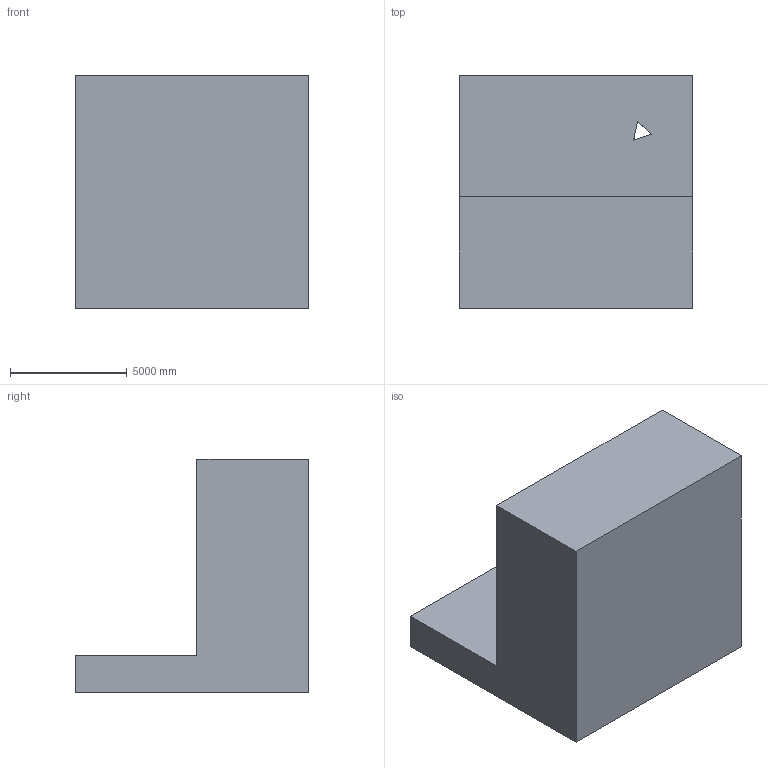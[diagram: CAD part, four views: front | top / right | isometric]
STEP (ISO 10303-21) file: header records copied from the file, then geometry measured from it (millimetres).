
FILE_DESCRIPTION (( 'STEP AP203' ), '1' );
FILE_NAME ('109.STEP', '2022-09-05T15:33:40', ( 'user' ), ( '' ), 'SwSTEP 2.0', 'SolidWorks 2021', '' );
FILE_SCHEMA (( 'CONFIG_CONTROL_DESIGN' ));
Length unit declared in the file: centimetre
Products named in the file (1): 109
Bounding box: 10000 x 10000 x 10000 mm (x, y, z)
Volume: 561465877141 mm3; surface area: 515695406.7 mm2
Topology: 1 solids, 1 shells, 11 faces, 27 edges, 18 vertices
Faces by surface type: plane 11
Entity records: 402 total; most frequent: CARTESIAN_POINT 57, ORIENTED_EDGE 54, DIRECTION 51, VECTOR 27, EDGE_CURVE 27, LINE 27, VERTEX_POINT 18, EDGE_LOOP 13
